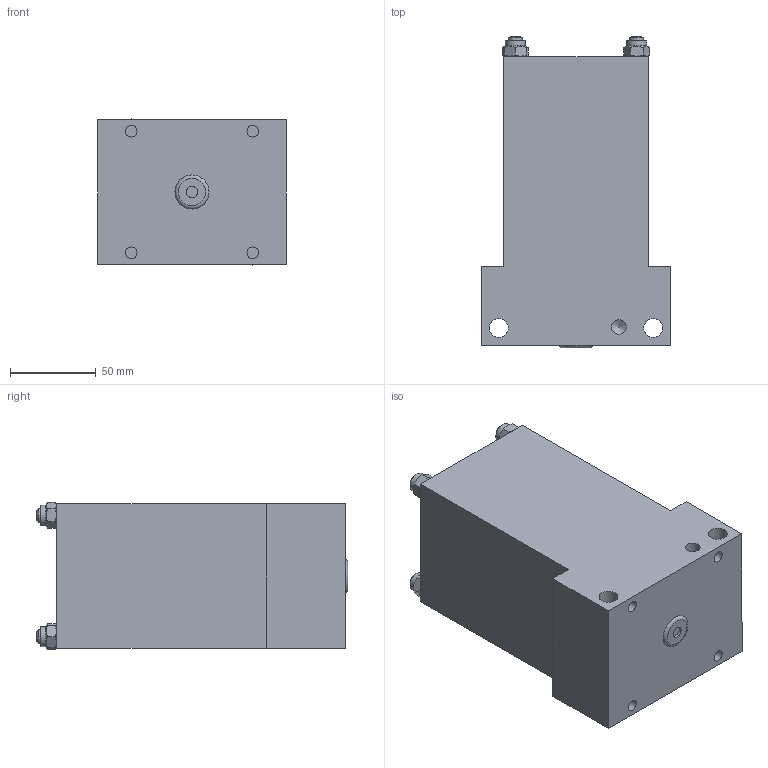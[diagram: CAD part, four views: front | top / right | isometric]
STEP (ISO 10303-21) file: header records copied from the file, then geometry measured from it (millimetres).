
FILE_DESCRIPTION((''),'2;1');
FILE_NAME('C:\VaultWork\Zeichnungen\Maßblätter\Multizylinder\M 75\M75-30\M01796-4-0 Maßblatt Multizylinder M75-4-20.stp','2013-06-19T16:43:46',('Sergeew'),(''),'Autodesk Inventor 2012','Autodesk Inventor 2012','');
FILE_SCHEMA(('AUTOMOTIVE_DESIGN { 1 0 10303 214 1 1 1 1 }'));
Length unit declared in the file: millimetre
Products named in the file (1): M01796-4-0 Maßblatt Multizylinder M75-4-20
Bounding box: 110 x 181.5 x 85.72 mm (x, y, z)
Volume: 1267041.8 mm3; surface area: 90896.1 mm2
Topology: 1 solids, 5 shells, 108 faces, 235 edges, 156 vertices
Faces by surface type: plane 61, cylinder 25, cone 21, torus 1
Full cylindrical faces by diameter (mm): 6.647 x5, 8 x8, 8.566 x2, 9 x4, 11 x2, 11.6 x4
Entity records: 2577 total; most frequent: CARTESIAN_POINT 501, DIRECTION 402, ORIENTED_EDGE 328, EDGE_LOOP 178, AXIS2_PLACEMENT_3D 177, EDGE_CURVE 164, VERTEX_POINT 132, FACE_OUTER_BOUND 108
